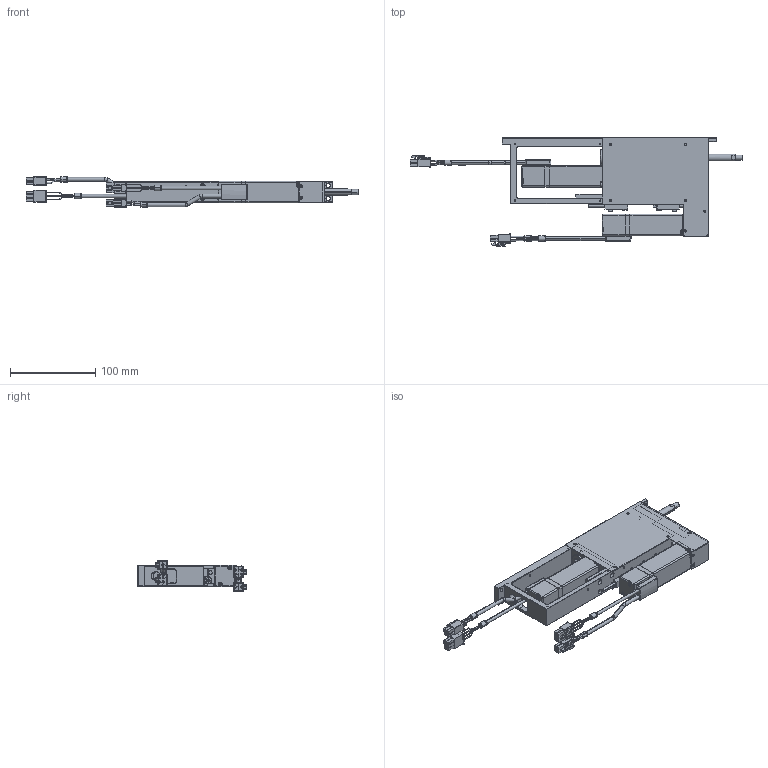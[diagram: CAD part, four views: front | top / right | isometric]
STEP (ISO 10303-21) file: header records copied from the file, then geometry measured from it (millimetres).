
FILE_DESCRIPTION((''),'2;1');
FILE_NAME('ZRDSS8-P12-S20-M50_ASM_ASM','2024-03-22T',('12562'),(''),'PRO/ENGINEER BY PARAMETRIC TECHNOLOGY CORPORATION, 2014320','PRO/ENGINEER BY PARAMETRIC TECHNOLOGY CORPORATION, 2014320','');
FILE_SCHEMA(('AUTOMOTIVE_DESIGN { 1 0 10303 214 1 1 1 1 }'));
Products named in the file (40): MSBR-39; MSBR-38; MSBR-37; MSBR-36; MSBR-35; MSBR-34; MSBR-33; MSBR-32; MSBR-31; MSBR-30; MSBR-29; MSBR-28; MSBR-27; MSBR-26; MSBR-25; MSBR-24; MSBR-23; MSBR-20; MSBR-19; MSBR-18; MSBR-17; MSBR-16; MSBR-15; MSBR-14; MSBR-13; MSBR-12; MSBR-11; MSBR-10; MSBR-9; MSBR-8; MSBR-7; MSBR-6; MSBR-5; MSBR-4; MSBR-3; MSBR-2; MSBR-1; ASM0001_ASM_ASM; ASM0001_ASM; ZRDSS8-P12-S20-M50_ASM_ASM
Assembly tree (39 placements, depth 4):
  ZRDSS8-P12-S20-M50_ASM_ASM
    ASM0001_ASM
      ASM0001_ASM_ASM
        MSBR-39
        MSBR-38
        MSBR-37
        MSBR-36
        MSBR-35
        MSBR-34
        MSBR-33
        MSBR-32
        MSBR-31
        MSBR-30
        MSBR-29
        MSBR-28
        MSBR-27
        MSBR-26
        MSBR-25
        MSBR-24
        MSBR-23
        MSBR-20
        MSBR-19
        MSBR-18
        MSBR-17
        MSBR-16
        MSBR-15
        MSBR-14
        MSBR-13
        MSBR-12
        MSBR-11
        MSBR-10
        MSBR-9
        MSBR-8
        MSBR-7
        MSBR-6
        MSBR-5
        MSBR-4
        MSBR-3
        MSBR-2
        MSBR-1
Bounding box: 388.9 x 126.7 x 35.7 mm (x, y, z)
Volume: 447972.7 mm3; surface area: 173982.1 mm2
Topology: 37 solids, 43 shells, 2674 faces, 6945 edges, 4428 vertices
Faces by surface type: plane 1360, cylinder 856, cone 256, torus 152, bspline 30, sphere 20
Entity records: 87184 total; most frequent: CARTESIAN_POINT 18466, DIRECTION 14213, ORIENTED_EDGE 13742, EDGE_CURVE 6871, AXIS2_PLACEMENT_3D 5031, VERTEX_POINT 4428, VECTOR 4151, LINE 4151
